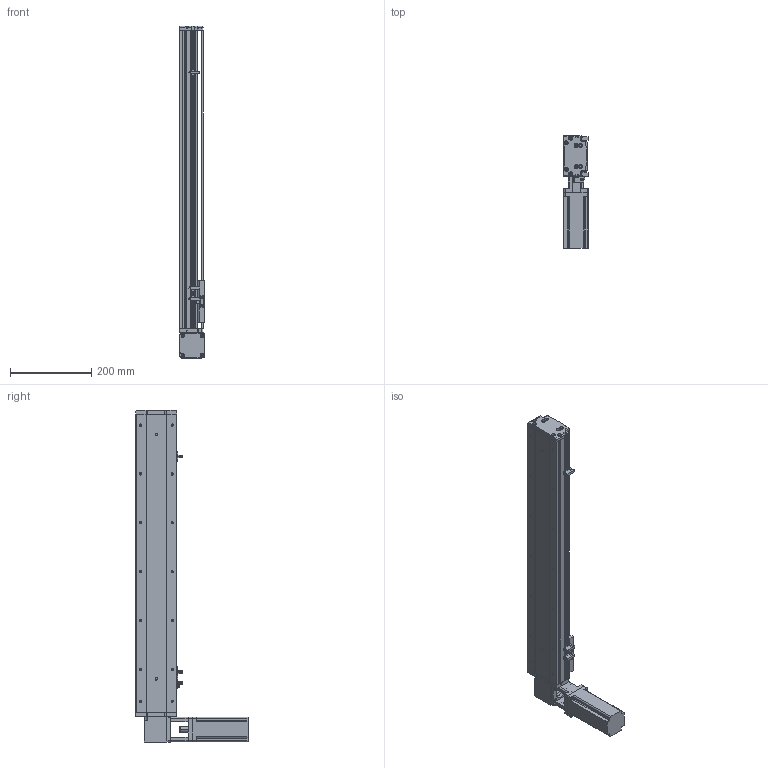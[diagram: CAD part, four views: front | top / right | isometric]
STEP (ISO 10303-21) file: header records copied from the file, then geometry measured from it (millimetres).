
FILE_DESCRIPTION (( 'STEP AP214' ), '1' );
FILE_NAME ('KSD100B-S550-MLT-CM.STEP', '2019-11-11T03:47:46', ( '微软用户' ), ( '微软中国' ), 'SwSTEP 2.0', 'SolidWorks 2014', '' );
FILE_SCHEMA (( 'AUTOMOTIVE_DESIGN' ));
Length unit declared in the file: millimetre
Products named in the file (12): 100遵傷啣肮祭湍; 100宽底板半封闭同步带550行程; KSD100B-S550-MLT-CM; 100宽安装板同步带带电机座400W,86; 100遵鎮湛假蚾啣1 ; 100宽防尘板550行程-同步带; U倰嫖萇EEㄜSX672; 覜茼え100遵圉猾敕; 台达ECMA－C20604AS伺服电机; 100宽马达安装板同步带右; 100宽同步带安装板半封闭; 100宽马达安装板同步带
Assembly tree (13 placements, depth 2):
  KSD100B-S550-MLT-CM
    100宽底板半封闭同步带550行程
    100遵傷啣肮祭湍
    100宽马达安装板同步带
    100宽同步带安装板半封闭
    100宽马达安装板同步带右
    台达ECMA－C20604AS伺服电机
    覜茼え100遵圉猾敕
    U倰嫖萇EEㄜSX672  x3
    100宽防尘板550行程-同步带
    100遵鎮湛假蚾啣1 
    100宽安装板同步带带电机座400W,86
Bounding box: 61 x 275 x 815 mm (x, y, z)
Volume: 2065760.2 mm3; surface area: 641652.4 mm2
Topology: 14 solids, 14 shells, 1338 faces, 3743 edges, 2397 vertices
Faces by surface type: cylinder 668, plane 563, cone 107
Entity records: 45907 total; most frequent: CARTESIAN_POINT 8780, DIRECTION 6471, ORIENTED_EDGE 6178, EDGE_CURVE 3089, AXIS2_PLACEMENT_3D 2370, VERTEX_POINT 2021, LINE 1731, VECTOR 1731
